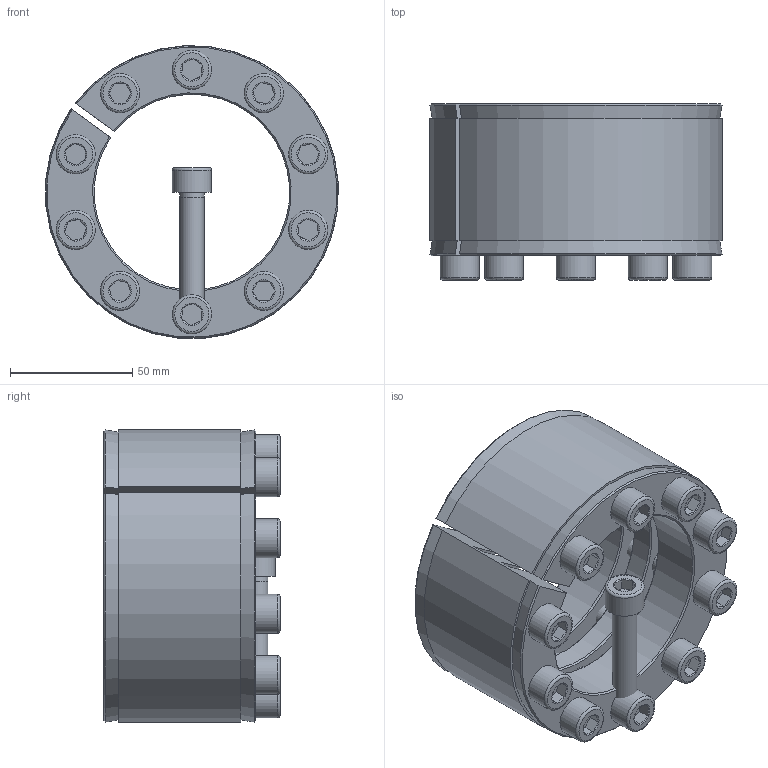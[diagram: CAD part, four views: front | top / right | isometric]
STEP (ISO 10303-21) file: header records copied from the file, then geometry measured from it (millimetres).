
FILE_DESCRIPTION( ( 'Unknown' ), '1' );
FILE_NAME( 'C:/Users/Frank/Eigene Daten/CAD/Solid Edge/KBK Karpstein/KBS Layout Baureihen/KBS 18/KBS - 80 x 120.stp', 'Unknown', ( 'Unknown' ), ( 'Unknown' ), 'XStep 1.0', 'Unknown', ' ' );
FILE_SCHEMA( ( 'automotive_design' ) );
Length unit declared in the file: millimetre
Products named in the file (3): Assem1; ISO EN DIN 4762 M10x55; KBS 18 - 80 x 120
Bounding box: 119.67 x 72 x 119.74 mm (x, y, z)
Volume: 649835.2 mm3; surface area: 198108.3 mm2
Topology: 13 solids, 13 shells, 407 faces, 917 edges, 540 vertices
Faces by surface type: plane 172, cylinder 112, cone 101, torus 22
Full cylindrical faces by diameter (mm): 8.376 x20, 9 x11, 10 x22, 11 x40, 16 x11
Entity records: 3666 total; most frequent: CARTESIAN_POINT 719, DIRECTION 524, ORIENTED_EDGE 434, AXIS2_PLACEMENT_3D 244, EDGE_CURVE 217, EDGE_LOOP 172, VERTEX_POINT 151, CIRCLE 141
